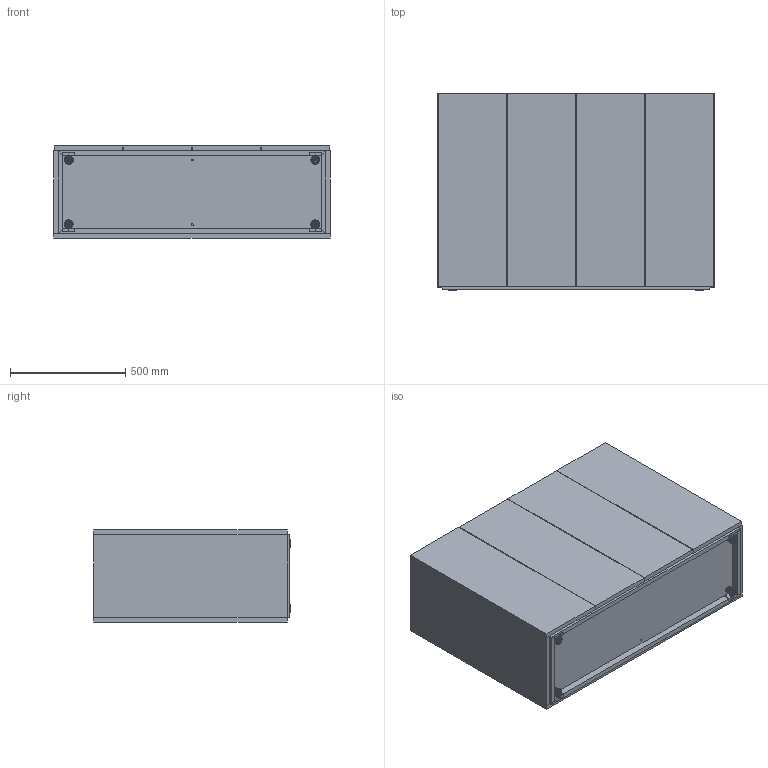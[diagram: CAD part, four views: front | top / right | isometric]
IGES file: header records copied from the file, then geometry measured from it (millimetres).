
Start section: SolidWorks IGES file using analytic representation for surfaces
Global section: file name: C:\DOCUMENTI_UT\030_PRODUZIONE MAKRO\SW\MOBILI_LAVABO\MODULO30\ASSIEMI\TOP TECH LATERALE\MODULO30_120\MODULO30_120_4ANTE_MOBILE_LAVABODX_ISOLA.IGS; native system: SolidWorks 2012; preprocessor: SolidWorks 2012; author: TECNICO; date: 160519.090931; units: millimetre
Bounding box: 1200 x 851.15 x 400 mm (x, y, z)
Surface area: 7014283 mm2 (no closed solid volume)
Topology: 0 solids, 0 shells, 353 faces, 5294 edges, 5282 vertices
Faces by surface type: bspline 203, revolution 150
